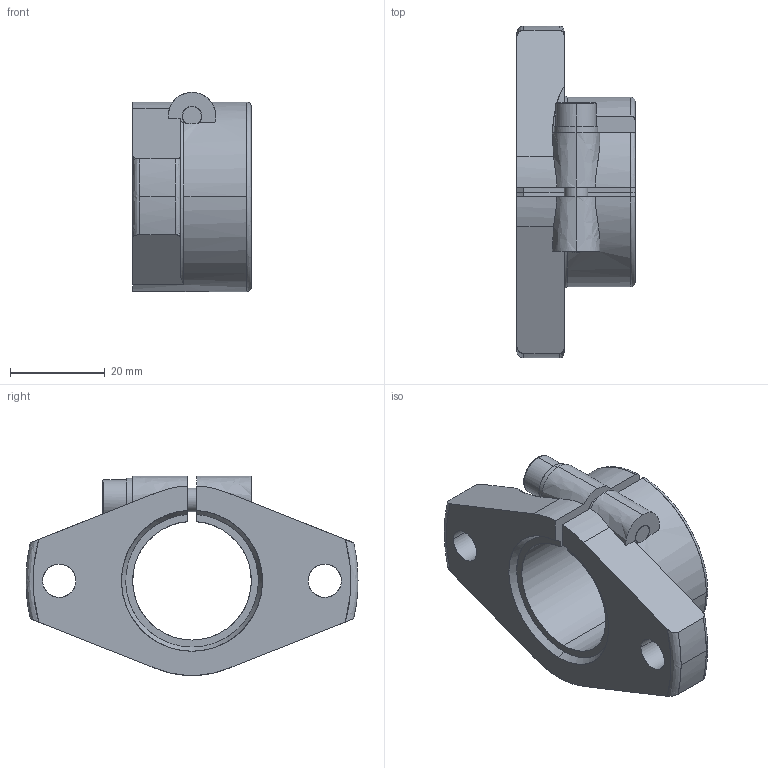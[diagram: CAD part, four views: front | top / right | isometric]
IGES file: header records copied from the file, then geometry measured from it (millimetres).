
Global section: file name: No Iges File Name specified; native system: AutoDesk Inventor R10; preprocessor: AutoDesk Inventor Iges Exporter R10; author: No Author specified; organization: No Organization specified; date: 20101214.153605; units: millimetre
Bounding box: 25 x 70 x 42 mm (x, y, z)
Surface area: 9801.5 mm2 (no closed solid volume)
Topology: 0 solids, 0 shells, 76 faces, 694 edges, 692 vertices
Faces by surface type: bspline 76
